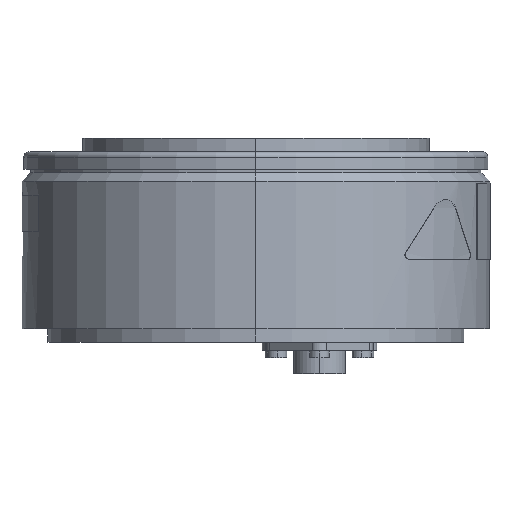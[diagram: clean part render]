
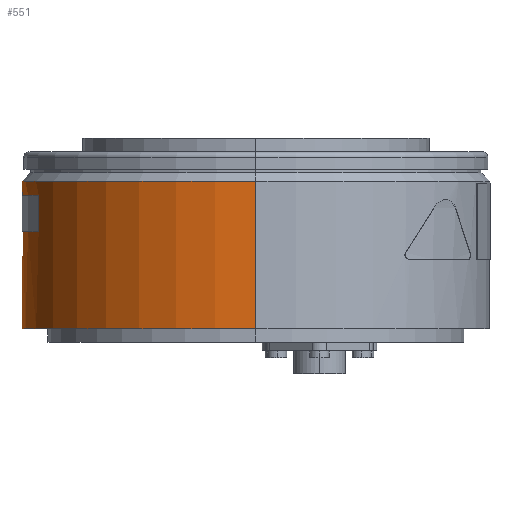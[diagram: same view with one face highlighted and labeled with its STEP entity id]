
A CAD part, left-side view. The second image highlights one B-rep face of the part: STEP entity #551.
In plain terms, the highlighted cylindrical face has radius 67.5 mm (diameter 135 mm), a partial arc.
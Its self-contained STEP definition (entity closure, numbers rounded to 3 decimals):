
#551 = ADVANCED_FACE ( 'NONE', ( #4658, #4666 ), #4660, .T. ) ;
#1749 = AXIS2_PLACEMENT_3D ( 'NONE', #4833, #4832, #4831 ) ;
#1808 = AXIS2_PLACEMENT_3D ( 'NONE', #2521, #2522, #2523 ) ;
#1810 = AXIS2_PLACEMENT_3D ( 'NONE', #2524, #2530, #2531 ) ;
#1814 = AXIS2_PLACEMENT_3D ( 'NONE', #2537, #2540, #2541 ) ;
#1819 = AXIS2_PLACEMENT_3D ( 'NONE', #2569, #2571, #2572 ) ;
#2298 = LINE ( 'NONE', #5148, #2299 ) ;
#2299 = VECTOR ( 'NONE', #5149, 1000. ) ;
#2317 = LINE ( 'NONE', #2476, #2324 ) ;
#2324 = VECTOR ( 'NONE', #2479, 1000. ) ;
#2354 = CIRCLE ( 'NONE', #1808, 67.5 ) ;
#2356 = LINE ( 'NONE', #2548, #2371 ) ;
#2359 = CIRCLE ( 'NONE', #1810, 67.5 ) ;
#2364 = CIRCLE ( 'NONE', #1814, 67.5 ) ;
#2369 = LINE ( 'NONE', #2550, #2370 ) ;
#2370 = VECTOR ( 'NONE', #2551, 1000. ) ;
#2371 = VECTOR ( 'NONE', #2553, 1000. ) ;
#2382 = CIRCLE ( 'NONE', #1819, 67.5 ) ;
#2476 = CARTESIAN_POINT ( 'NONE',  ( 67.5, 0., 0. ) ) ;
#2479 = DIRECTION ( 'NONE',  ( 0., 0., -1. ) ) ;
#2521 = CARTESIAN_POINT ( 'NONE',  ( 0., 0., 42.5 ) ) ;
#2522 = DIRECTION ( 'NONE',  ( 0., 0., -1. ) ) ;
#2523 = DIRECTION ( 'NONE',  ( 1., 0., 0. ) ) ;
#2524 = CARTESIAN_POINT ( 'NONE',  ( 0., 0., 32. ) ) ;
#2530 = DIRECTION ( 'NONE',  ( 0., 0., 1. ) ) ;
#2531 = DIRECTION ( 'NONE',  ( -1., 0., 0. ) ) ;
#2537 = CARTESIAN_POINT ( 'NONE',  ( 0., 0., 4. ) ) ;
#2540 = DIRECTION ( 'NONE',  ( 0., 0., -1. ) ) ;
#2541 = DIRECTION ( 'NONE',  ( -1., 0., 0. ) ) ;
#2548 = CARTESIAN_POINT ( 'NONE',  ( -25., 62.7, 0. ) ) ;
#2550 = CARTESIAN_POINT ( 'NONE',  ( -67.5, 0., 0. ) ) ;
#2551 = DIRECTION ( 'NONE',  ( 0., 0., -1. ) ) ;
#2553 = DIRECTION ( 'NONE',  ( 0., 0., 1. ) ) ;
#2569 = CARTESIAN_POINT ( 'NONE',  ( 0., 0., 46.5 ) ) ;
#2571 = DIRECTION ( 'NONE',  ( 0., 0., -1. ) ) ;
#2572 = DIRECTION ( 'NONE',  ( -1., 0., 0. ) ) ;
#2608 = CARTESIAN_POINT ( 'NONE',  ( -67.5, 0., 46.5 ) ) ;
#2611 = CARTESIAN_POINT ( 'NONE',  ( 67.5, 0., 46.5 ) ) ;
#4658 = FACE_BOUND ( 'NONE', #9247, .T. ) ;
#4660 = CYLINDRICAL_SURFACE ( 'NONE', #1749, 67.5 ) ;
#4666 = FACE_OUTER_BOUND ( 'NONE', #9257, .T. ) ;
#4831 = DIRECTION ( 'NONE',  ( -1., 0., 0. ) ) ;
#4832 = DIRECTION ( 'NONE',  ( 0., 0., -1. ) ) ;
#4833 = CARTESIAN_POINT ( 'NONE',  ( 0., 0., 0. ) ) ;
#5148 = CARTESIAN_POINT ( 'NONE',  ( 25., 62.7, 0. ) ) ;
#5149 = DIRECTION ( 'NONE',  ( 0., 0., -1. ) ) ;
#5273 = EDGE_CURVE ( 'NONE', #9633, #6802, #2298, .T. ) ;
#5288 = EDGE_CURVE ( 'NONE', #5568, #9664, #2317, .T. ) ;
#5306 = EDGE_CURVE ( 'NONE', #6932, #9633, #2354, .T. ) ;
#5309 = EDGE_CURVE ( 'NONE', #6802, #9649, #2359, .T. ) ;
#5313 = EDGE_CURVE ( 'NONE', #9661, #9664, #2364, .T. ) ;
#5317 = EDGE_CURVE ( 'NONE', #5562, #9661, #2369, .T. ) ;
#5318 = EDGE_CURVE ( 'NONE', #9649, #6932, #2356, .T. ) ;
#5325 = EDGE_CURVE ( 'NONE', #5562, #5568, #2382, .T. ) ;
#5562 = VERTEX_POINT ( 'NONE', #2608 ) ;
#5568 = VERTEX_POINT ( 'NONE', #2611 ) ;
#5986 = ORIENTED_EDGE ( 'NONE', *, *, #5318, .F. ) ;
#5987 = ORIENTED_EDGE ( 'NONE', *, *, #5309, .F. ) ;
#5988 = ORIENTED_EDGE ( 'NONE', *, *, #5273, .F. ) ;
#5989 = ORIENTED_EDGE ( 'NONE', *, *, #5306, .F. ) ;
#5990 = ORIENTED_EDGE ( 'NONE', *, *, #5325, .T. ) ;
#5991 = ORIENTED_EDGE ( 'NONE', *, *, #5288, .T. ) ;
#5992 = ORIENTED_EDGE ( 'NONE', *, *, #5313, .F. ) ;
#5993 = ORIENTED_EDGE ( 'NONE', *, *, #5317, .F. ) ;
#6802 = VERTEX_POINT ( 'NONE', #8493 ) ;
#6932 = VERTEX_POINT ( 'NONE', #8611 ) ;
#8493 = CARTESIAN_POINT ( 'NONE',  ( 25., 62.7, 32. ) ) ;
#8611 = CARTESIAN_POINT ( 'NONE',  ( -25., 62.7, 42.5 ) ) ;
#8741 = CARTESIAN_POINT ( 'NONE',  ( 25., 62.7, 42.5 ) ) ;
#8753 = CARTESIAN_POINT ( 'NONE',  ( -25., 62.7, 32. ) ) ;
#8764 = CARTESIAN_POINT ( 'NONE',  ( -67.5, 0., 4. ) ) ;
#8767 = CARTESIAN_POINT ( 'NONE',  ( 67.5, 0., 4. ) ) ;
#9247 = EDGE_LOOP ( 'NONE', ( #5986, #5987, #5988, #5989 ) ) ;
#9257 = EDGE_LOOP ( 'NONE', ( #5990, #5991, #5992, #5993 ) ) ;
#9633 = VERTEX_POINT ( 'NONE', #8741 ) ;
#9649 = VERTEX_POINT ( 'NONE', #8753 ) ;
#9661 = VERTEX_POINT ( 'NONE', #8764 ) ;
#9664 = VERTEX_POINT ( 'NONE', #8767 ) ;
